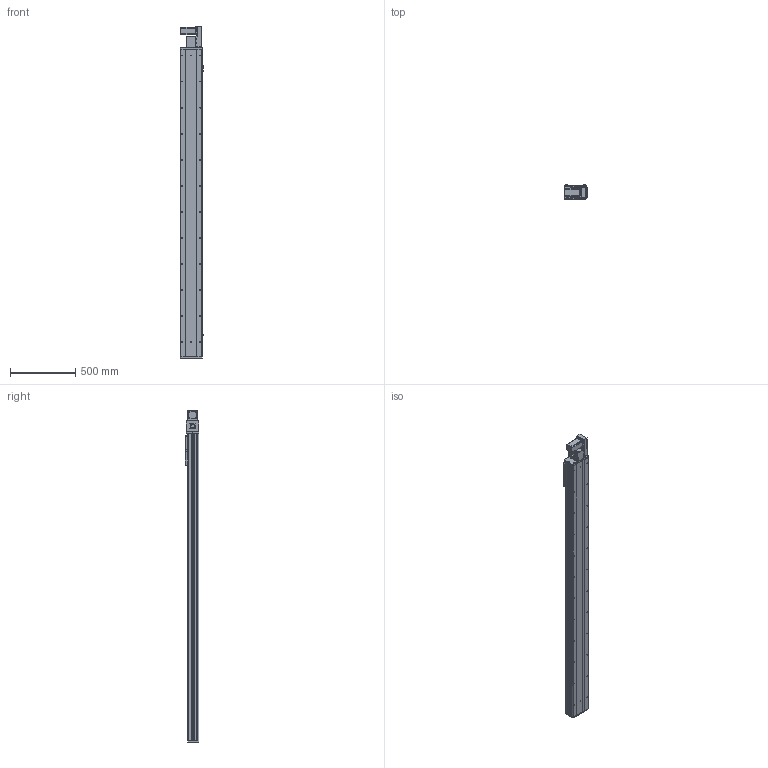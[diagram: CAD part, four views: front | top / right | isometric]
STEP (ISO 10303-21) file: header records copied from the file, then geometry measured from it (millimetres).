
FILE_DESCRIPTION (( 'STEP AP203' ), '1' );
FILE_NAME ('Y170CB-D105-S2050-BR-P400W.STEP', '2020-02-19T09:39:20', ( '微软用户' ), ( '微软中国' ), 'SwSTEP 2.0', 'SolidWorks 2017', '' );
FILE_SCHEMA (( 'CONFIG_CONTROL_DESIGN' ));
Length unit declared in the file: millimetre
Products named in the file (17): 70CB-詩湍--; Y100-135俋离換覜ん--; Y170CB-陔俋离換覜結え---; Y170CB-D105-S2050-BR-P400W; 70C--詩湍揤踡え-; 70B喘謫眊----; B-源倛裔啣; 17B-耜蚾蟀諉啣----; 0B-萇儂楊擘啣; 70CB--耜裔; san松下电机400不带刹车----; Y70俋欶BR----; 0C--雄赽釱俋欶-170; 70CB-掛极-; --70CB --喘謫眊楊擘啣-; 70C-雄赽釱-奻-; 70CB-耜裔啣-
Assembly tree (20 placements, depth 2):
  Y170CB-D105-S2050-BR-P400W
    70B喘謫眊----
    B-源倛裔啣
    17B-耜蚾蟀諉啣----
    0B-萇儂楊擘啣
    san松下电机400不带刹车----
    Y70俋欶BR----
    70CB-掛极-
    --70CB --喘謫眊楊擘啣-
    70CB-耜裔啣-  x2
    70C--詩湍揤踡え-  x2
    70CB--耜裔
    70C-雄赽釱-奻-
    0C--雄赽釱俋欶-170
    70CB-詩湍--
    Y100-135俋离換覜ん--  x3
    Y170CB-陔俋离換覜結え---
Bounding box: 183.5 x 107 x 2547 mm (x, y, z)
Volume: 10666927.4 mm3; surface area: 3838876.9 mm2
Topology: 20 solids, 20 shells, 1033 faces, 2777 edges, 1842 vertices
Faces by surface type: cylinder 547, plane 462, cone 24
Entity records: 32919 total; most frequent: CARTESIAN_POINT 6081, DIRECTION 5356, ORIENTED_EDGE 5036, EDGE_CURVE 2518, AXIS2_PLACEMENT_3D 1965, VERTEX_POINT 1672, LINE 1426, VECTOR 1426
